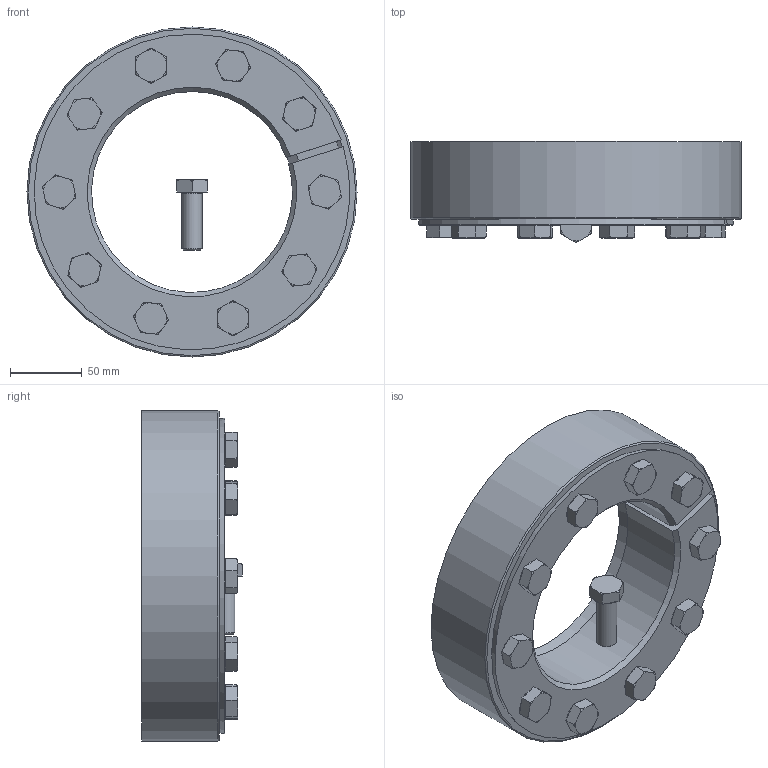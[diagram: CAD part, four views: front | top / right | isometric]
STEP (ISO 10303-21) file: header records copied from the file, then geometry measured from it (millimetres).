
FILE_DESCRIPTION( ( 'Unknown' ), '1' );
FILE_NAME( 'C:/Dokumente und Einstellungen/Sven/Desktop/homepage/cad - homepage/KBS19-1/KBS 19_1 - 140 x 230.stp', 'Unknown', ( 'Unknown' ), ( 'Unknown' ), 'XStep 1.0', 'Unknown', ' ' );
FILE_SCHEMA( ( 'automotive_design' ) );
Length unit declared in the file: millimetre
Products named in the file (3): Assem1; KBS 19_1 - 140 x 230; ISO 4017 - M14 x 40-N
Bounding box: 230 x 70.25 x 230 mm (x, y, z)
Volume: 2907485.7 mm3; surface area: 322667 mm2
Topology: 13 solids, 13 shells, 281 faces, 704 edges, 460 vertices
Faces by surface type: plane 139, torus 79, cylinder 46, cone 17
Full cylindrical faces by diameter (mm): 14 x31, 21.198 x11, 230 x2
Entity records: 1758 total; most frequent: CARTESIAN_POINT 395, DIRECTION 242, ORIENTED_EDGE 202, AXIS2_PLACEMENT_3D 101, EDGE_CURVE 101, EDGE_LOOP 85, VERTEX_POINT 76, FACE_OUTER_BOUND 61
